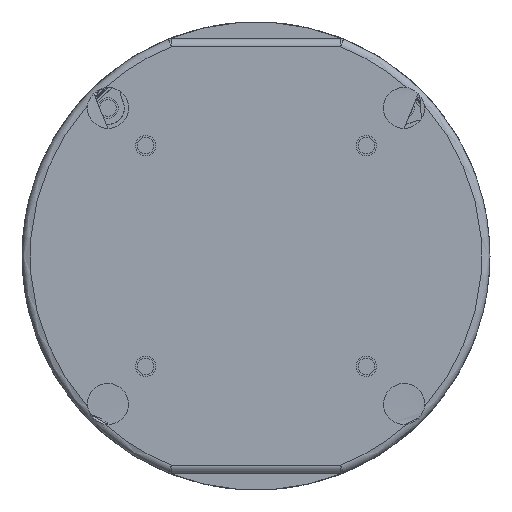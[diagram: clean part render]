
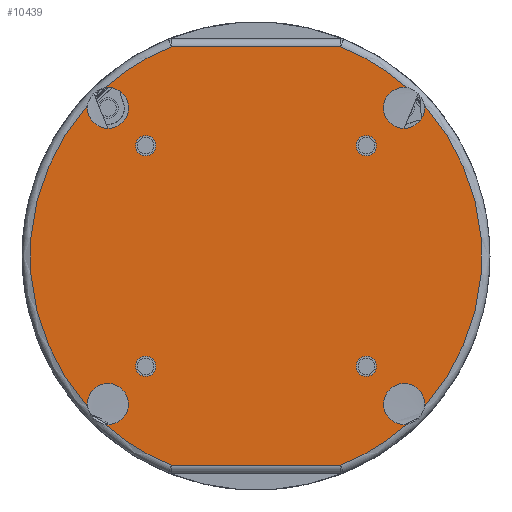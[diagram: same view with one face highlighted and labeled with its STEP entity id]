
A CAD part, left-side view. The second image highlights one B-rep face of the part: STEP entity #10439.
In plain terms, the highlighted planar face has unit normal (-1, 0, 0).
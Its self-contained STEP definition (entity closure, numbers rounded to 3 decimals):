
#377=FACE_BOUND('',#2372,.T.);
#378=FACE_BOUND('',#2373,.T.);
#379=FACE_BOUND('',#2374,.T.);
#380=FACE_BOUND('',#2375,.T.);
#619=PLANE('',#11725);
#1713=FACE_OUTER_BOUND('',#2371,.T.);
#2371=EDGE_LOOP('',(#9359,#9360,#9361,#9362,#9363,#9364,#9365,#9366,#9367,
#9368,#9369,#9370,#9371,#9372,#9373,#9374));
#2372=EDGE_LOOP('',(#9375));
#2373=EDGE_LOOP('',(#9376));
#2374=EDGE_LOOP('',(#9377));
#2375=EDGE_LOOP('',(#9378));
#3098=CIRCLE('',#11697,27.5);
#3100=CIRCLE('',#11699,27.5);
#3101=CIRCLE('',#11700,27.5);
#3102=CIRCLE('',#11702,27.5);
#3105=CIRCLE('',#11705,27.5);
#3106=CIRCLE('',#11706,27.5);
#3111=CIRCLE('',#11718,1.23);
#3112=CIRCLE('',#11720,1.23);
#3113=CIRCLE('',#11722,1.23);
#3114=CIRCLE('',#11724,1.23);
#3115=CIRCLE('',#11726,2.5);
#3116=CIRCLE('',#11727,2.5);
#3117=CIRCLE('',#11728,2.5);
#3118=CIRCLE('',#11729,2.5);
#3119=CIRCLE('',#11730,2.5);
#3120=CIRCLE('',#11731,2.5);
#3121=CIRCLE('',#11732,2.5);
#3122=CIRCLE('',#11733,2.5);
#3658=LINE('',#19163,#4197);
#3662=LINE('',#19258,#4201);
#4197=VECTOR('',#14653,10.);
#4201=VECTOR('',#14703,10.);
#5169=VERTEX_POINT('',#19151);
#5170=VERTEX_POINT('',#19157);
#5173=VERTEX_POINT('',#19171);
#5174=VERTEX_POINT('',#19172);
#5175=VERTEX_POINT('',#19187);
#5176=VERTEX_POINT('',#19190);
#5177=VERTEX_POINT('',#19192);
#5178=VERTEX_POINT('',#19209);
#5179=VERTEX_POINT('',#19210);
#5181=VERTEX_POINT('',#19228);
#5182=VERTEX_POINT('',#19230);
#5183=VERTEX_POINT('',#19232);
#5184=VERTEX_POINT('',#19261);
#5185=VERTEX_POINT('',#19265);
#5186=VERTEX_POINT('',#19269);
#5187=VERTEX_POINT('',#19273);
#5188=VERTEX_POINT('',#19277);
#5189=VERTEX_POINT('',#19280);
#5190=VERTEX_POINT('',#19283);
#5191=VERTEX_POINT('',#19286);
#6587=EDGE_CURVE('',#5169,#5170,#3658,.T.);
#6592=EDGE_CURVE('',#5174,#5175,#3098,.T.);
#6594=EDGE_CURVE('',#5170,#5176,#3100,.T.);
#6596=EDGE_CURVE('',#5177,#5173,#3101,.T.);
#6598=EDGE_CURVE('',#5179,#5169,#3102,.T.);
#6601=EDGE_CURVE('',#5181,#5182,#3105,.T.);
#6603=EDGE_CURVE('',#5183,#5178,#3106,.T.);
#6609=EDGE_CURVE('',#5175,#5181,#3662,.T.);
#6610=EDGE_CURVE('',#5184,#5184,#3111,.T.);
#6612=EDGE_CURVE('',#5185,#5185,#3112,.T.);
#6614=EDGE_CURVE('',#5186,#5186,#3113,.T.);
#6616=EDGE_CURVE('',#5187,#5187,#3114,.T.);
#6618=EDGE_CURVE('',#5174,#5188,#3115,.T.);
#6619=EDGE_CURVE('',#5188,#5173,#3116,.T.);
#6620=EDGE_CURVE('',#5177,#5189,#3117,.T.);
#6621=EDGE_CURVE('',#5189,#5176,#3118,.T.);
#6622=EDGE_CURVE('',#5179,#5190,#3119,.T.);
#6623=EDGE_CURVE('',#5190,#5178,#3120,.T.);
#6624=EDGE_CURVE('',#5183,#5191,#3121,.T.);
#6625=EDGE_CURVE('',#5191,#5182,#3122,.T.);
#9359=ORIENTED_EDGE('',*,*,#6618,.T.);
#9360=ORIENTED_EDGE('',*,*,#6619,.T.);
#9361=ORIENTED_EDGE('',*,*,#6596,.F.);
#9362=ORIENTED_EDGE('',*,*,#6620,.T.);
#9363=ORIENTED_EDGE('',*,*,#6621,.T.);
#9364=ORIENTED_EDGE('',*,*,#6594,.F.);
#9365=ORIENTED_EDGE('',*,*,#6587,.F.);
#9366=ORIENTED_EDGE('',*,*,#6598,.F.);
#9367=ORIENTED_EDGE('',*,*,#6622,.T.);
#9368=ORIENTED_EDGE('',*,*,#6623,.T.);
#9369=ORIENTED_EDGE('',*,*,#6603,.F.);
#9370=ORIENTED_EDGE('',*,*,#6624,.T.);
#9371=ORIENTED_EDGE('',*,*,#6625,.T.);
#9372=ORIENTED_EDGE('',*,*,#6601,.F.);
#9373=ORIENTED_EDGE('',*,*,#6609,.F.);
#9374=ORIENTED_EDGE('',*,*,#6592,.F.);
#9375=ORIENTED_EDGE('',*,*,#6610,.T.);
#9376=ORIENTED_EDGE('',*,*,#6612,.T.);
#9377=ORIENTED_EDGE('',*,*,#6614,.T.);
#9378=ORIENTED_EDGE('',*,*,#6616,.T.);
#10439=ADVANCED_FACE('',(#1713,#377,#378,#379,#380),#619,.T.);
#11697=AXIS2_PLACEMENT_3D('',#19188,#14664,#14665);
#11699=AXIS2_PLACEMENT_3D('',#19191,#14668,#14669);
#11700=AXIS2_PLACEMENT_3D('',#19207,#14670,#14671);
#11702=AXIS2_PLACEMENT_3D('',#19225,#14674,#14675);
#11705=AXIS2_PLACEMENT_3D('',#19231,#14680,#14681);
#11706=AXIS2_PLACEMENT_3D('',#19247,#14682,#14683);
#11718=AXIS2_PLACEMENT_3D('',#19262,#14708,#14709);
#11720=AXIS2_PLACEMENT_3D('',#19266,#14713,#14714);
#11722=AXIS2_PLACEMENT_3D('',#19270,#14718,#14719);
#11724=AXIS2_PLACEMENT_3D('',#19274,#14723,#14724);
#11725=AXIS2_PLACEMENT_3D('',#19276,#14726,#14727);
#11726=AXIS2_PLACEMENT_3D('',#19278,#14728,#14729);
#11727=AXIS2_PLACEMENT_3D('',#19279,#14730,#14731);
#11728=AXIS2_PLACEMENT_3D('',#19281,#14732,#14733);
#11729=AXIS2_PLACEMENT_3D('',#19282,#14734,#14735);
#11730=AXIS2_PLACEMENT_3D('',#19284,#14736,#14737);
#11731=AXIS2_PLACEMENT_3D('',#19285,#14738,#14739);
#11732=AXIS2_PLACEMENT_3D('',#19287,#14740,#14741);
#11733=AXIS2_PLACEMENT_3D('',#19288,#14742,#14743);
#14653=DIRECTION('',(0.,-1.,0.));
#14664=DIRECTION('center_axis',(1.,0.,0.));
#14665=DIRECTION('ref_axis',(0.,0.,
-1.));
#14668=DIRECTION('center_axis',(1.,0.,0.));
#14669=DIRECTION('ref_axis',(0.,0.,
-1.));
#14670=DIRECTION('center_axis',(1.,0.,0.));
#14671=DIRECTION('ref_axis',(0.,0.,
-1.));
#14674=DIRECTION('center_axis',(1.,0.,0.));
#14675=DIRECTION('ref_axis',(0.,0.,
-1.));
#14680=DIRECTION('center_axis',(1.,0.,0.));
#14681=DIRECTION('ref_axis',(0.,0.,
-1.));
#14682=DIRECTION('center_axis',(1.,0.,0.));
#14683=DIRECTION('ref_axis',(0.,0.,
-1.));
#14703=DIRECTION('',(0.,1.,0.));
#14708=DIRECTION('center_axis',(1.,0.,0.));
#14709=DIRECTION('ref_axis',(0.,0.,
1.));
#14713=DIRECTION('center_axis',(1.,0.,0.));
#14714=DIRECTION('ref_axis',(0.,0.,
1.));
#14718=DIRECTION('center_axis',(1.,0.,0.));
#14719=DIRECTION('ref_axis',(0.,0.,
1.));
#14723=DIRECTION('center_axis',(1.,0.,0.));
#14724=DIRECTION('ref_axis',(0.,0.,
1.));
#14726=DIRECTION('center_axis',(-1.,0.,0.));
#14727=DIRECTION('ref_axis',(0.,0.,
1.));
#14728=DIRECTION('center_axis',(1.,0.,0.));
#14729=DIRECTION('ref_axis',(0.,0.,
1.));
#14730=DIRECTION('center_axis',(1.,0.,0.));
#14731=DIRECTION('ref_axis',(0.,0.,
1.));
#14732=DIRECTION('center_axis',(1.,0.,0.));
#14733=DIRECTION('ref_axis',(0.,0.,
1.));
#14734=DIRECTION('center_axis',(1.,0.,0.));
#14735=DIRECTION('ref_axis',(0.,0.,
1.));
#14736=DIRECTION('center_axis',(1.,0.,0.));
#14737=DIRECTION('ref_axis',(0.,0.,
1.));
#14738=DIRECTION('center_axis',(1.,0.,0.));
#14739=DIRECTION('ref_axis',(0.,0.,
1.));
#14740=DIRECTION('center_axis',(1.,0.,0.));
#14741=DIRECTION('ref_axis',(0.,0.,
1.));
#14742=DIRECTION('center_axis',(1.,0.,0.));
#14743=DIRECTION('ref_axis',(0.,0.,
1.));
#19151=CARTESIAN_POINT('',(-14.665,10.296,25.5));
#19157=CARTESIAN_POINT('',(-14.665,-10.296,25.5));
#19163=CARTESIAN_POINT('',(-14.665,8.506,25.5));
#19171=CARTESIAN_POINT('',(-14.665,-20.515,-18.313));
#19172=CARTESIAN_POINT('',(-14.665,-18.313,-20.515));
#19187=CARTESIAN_POINT('',(-14.665,-10.296,-25.5));
#19188=CARTESIAN_POINT('Origin',(-14.665,0.,
0.));
#19190=CARTESIAN_POINT('',(-14.665,-18.313,20.515));
#19191=CARTESIAN_POINT('Origin',(-14.665,0.,
0.));
#19192=CARTESIAN_POINT('',(-14.665,-20.515,18.313));
#19207=CARTESIAN_POINT('Origin',(-14.665,0.,
0.));
#19209=CARTESIAN_POINT('',(-14.665,20.515,18.313));
#19210=CARTESIAN_POINT('',(-14.665,18.313,20.515));
#19225=CARTESIAN_POINT('Origin',(-14.665,0.,
0.));
#19228=CARTESIAN_POINT('',(-14.665,10.296,-25.5));
#19230=CARTESIAN_POINT('',(-14.665,18.313,-20.515));
#19231=CARTESIAN_POINT('Origin',(-14.665,0.,
0.));
#19232=CARTESIAN_POINT('',(-14.665,20.515,-18.313));
#19247=CARTESIAN_POINT('Origin',(-14.665,0.,
0.));
#19258=CARTESIAN_POINT('',(-14.665,18.994,-25.5));
#19261=CARTESIAN_POINT('',(-14.665,13.435,-14.665));
#19262=CARTESIAN_POINT('Origin',(-14.665,13.435,-13.435));
#19265=CARTESIAN_POINT('',(-14.665,13.435,12.206));
#19266=CARTESIAN_POINT('Origin',(-14.665,13.435,13.435));
#19269=CARTESIAN_POINT('',(-14.665,-13.435,12.206));
#19270=CARTESIAN_POINT('Origin',(-14.665,-13.435,13.435));
#19273=CARTESIAN_POINT('',(-14.665,-13.435,-14.665));
#19274=CARTESIAN_POINT('Origin',(-14.665,-13.435,-13.435));
#19276=CARTESIAN_POINT('Origin',(-14.665,27.5,0.));
#19277=CARTESIAN_POINT('',(-14.665,-18.031,-20.531));
#19278=CARTESIAN_POINT('Origin',(-14.665,-18.031,-18.031));
#19279=CARTESIAN_POINT('Origin',(-14.665,-18.031,-18.031));
#19280=CARTESIAN_POINT('',(-14.665,-18.031,15.531));
#19281=CARTESIAN_POINT('Origin',(-14.665,-18.031,18.031));
#19282=CARTESIAN_POINT('Origin',(-14.665,-18.031,18.031));
#19283=CARTESIAN_POINT('',(-14.665,18.031,15.531));
#19284=CARTESIAN_POINT('Origin',(-14.665,18.031,18.031));
#19285=CARTESIAN_POINT('Origin',(-14.665,18.031,18.031));
#19286=CARTESIAN_POINT('',(-14.665,18.031,-20.531));
#19287=CARTESIAN_POINT('Origin',(-14.665,18.031,-18.031));
#19288=CARTESIAN_POINT('Origin',(-14.665,18.031,-18.031));
